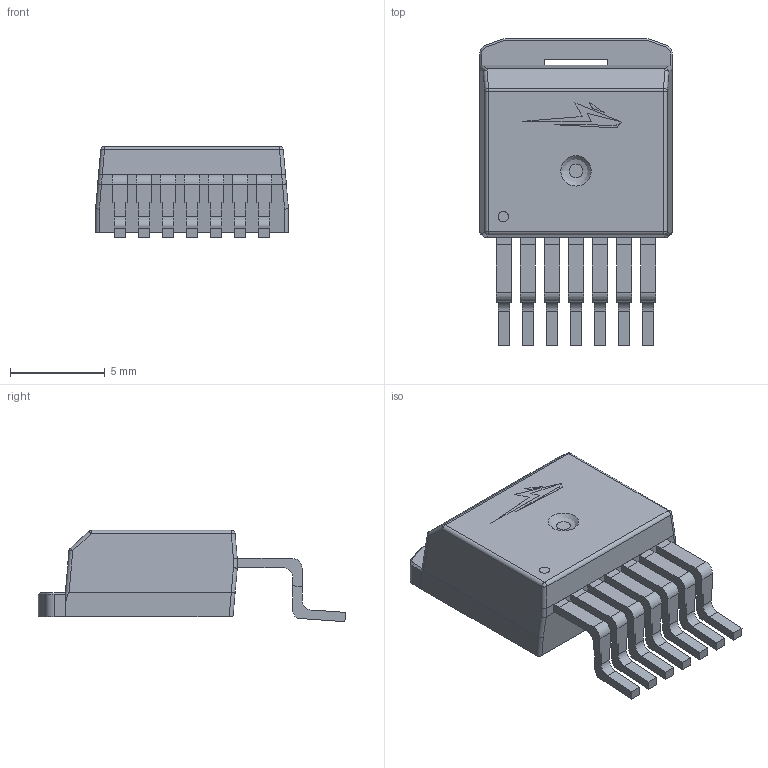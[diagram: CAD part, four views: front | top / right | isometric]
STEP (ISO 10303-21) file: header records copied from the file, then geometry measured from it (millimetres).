
FILE_DESCRIPTION(/* description */ (''),/* implementation_level */ '2;1');
FILE_NAME(/* name */ 'C:\Users\k\Desktop\TO-263-7 WolfSpeed H=4.82\C3M0120065J.stp',/* time_stamp */ '2021-10-30T18:37:45+02:00',/* author */ ('k'),/* organization */ (''),/* preprocessor_version */ 'ST-DEVELOPER v15.6',/* originating_system */ 'Autodesk Inventor 2015',/* authorisation */ '');
FILE_SCHEMA (('AUTOMOTIVE_DESIGN { 1 0 10303 214 3 1 1 }'));
Length unit declared in the file: millimetre
Products named in the file (4): 1; 2; Wolf Speed Logo
Bounding box: 10.18 x 16.21 x 4.82 mm (x, y, z)
Volume: 478 mm3; surface area: 624.4 mm2
Topology: 13 solids, 13 shells, 253 faces, 653 edges, 427 vertices
Faces by surface type: plane 182, cylinder 50, bspline 11, sphere 6, cone 4
Full cylindrical faces by diameter (mm): 0.547 x1
Entity records: 7786 total; most frequent: CARTESIAN_POINT 1497, ORIENTED_EDGE 1304, DIRECTION 1238, EDGE_CURVE 652, LINE 522, VECTOR 522, VERTEX_POINT 427, AXIS2_PLACEMENT_3D 358
